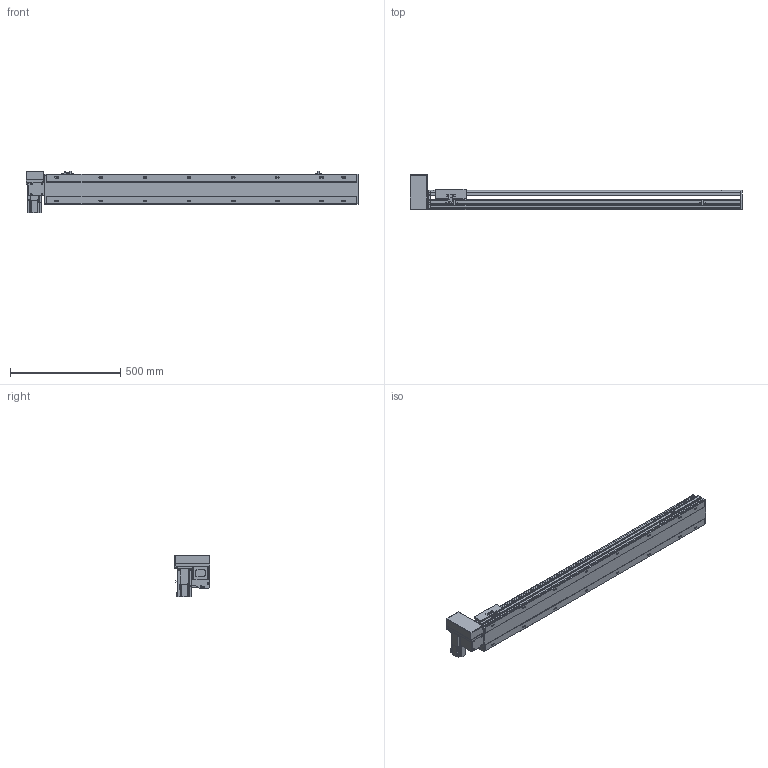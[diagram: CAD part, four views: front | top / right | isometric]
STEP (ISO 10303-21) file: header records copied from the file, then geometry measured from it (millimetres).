
FILE_DESCRIPTION(/* description */ ('STEP AP214'),/* implementation_level */ '2;1');
FILE_NAME(/* name */ 'PBS140S-P40-S1150-RU-T40-C1-N(0)',/* time_stamp */ '2022-06-09T02:54:53+02:00',/* author */ ('License CC BY-ND 4.0'),/* organization */ ('CADENAS'),/* preprocessor_version */ 'ST-DEVELOPER v18.102',/* originating_system */ 'PARTsolutions',/* authorisation */ ' ');
FILE_SCHEMA (('AUTOMOTIVE_DESIGN {1 0 10303 214 3 1 1}'));
Length unit declared in the file: millimetre
Products named in the file (7): PBS140S-P40-S1150-RU-T40-C1-N(0); PBS140S_sensor; PBS140S_plant; PBS140S_sliser; T40-p1; PBS140ST-RU_motors; PBS140S-S1150()_body
Assembly tree (8 placements, depth 2):
  PBS140S-P40-S1150-RU-T40-C1-N(0)
    PBS140S_sensor  x3
    PBS140S_plant
    PBS140S_sliser
    T40-p1
    PBS140ST-RU_motors
    PBS140S-S1150()_body
Bounding box: 1504 x 162.5 x 189.7 mm (x, y, z)
Volume: 7721953.8 mm3; surface area: 1331102.2 mm2
Topology: 8 solids, 8 shells, 1099 faces, 2911 edges, 1905 vertices
Faces by surface type: plane 702, cylinder 345, cone 42, sphere 8, torus 2
Full cylindrical faces by diameter (mm): 3.242 x4, 4 x2, 4.134 x4, 4.4 x8, 4.5 x2, 4.8 x4, 4.917 x24, 5.5 x7, 6 x2, 7 x18, 7.5 x8, 8 x12, 8.5 x4, 10.5 x16, 14 x1, 30 x2, 50 x2
Entity records: 31496 total; most frequent: CARTESIAN_POINT 5816, DIRECTION 5348, ORIENTED_EDGE 5062, EDGE_CURVE 2531, AXIS2_PLACEMENT_3D 1859, VERTEX_POINT 1753, LINE 1630, VECTOR 1630
